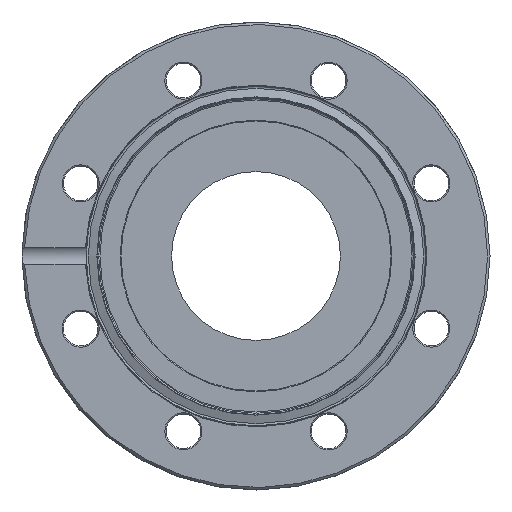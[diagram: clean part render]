
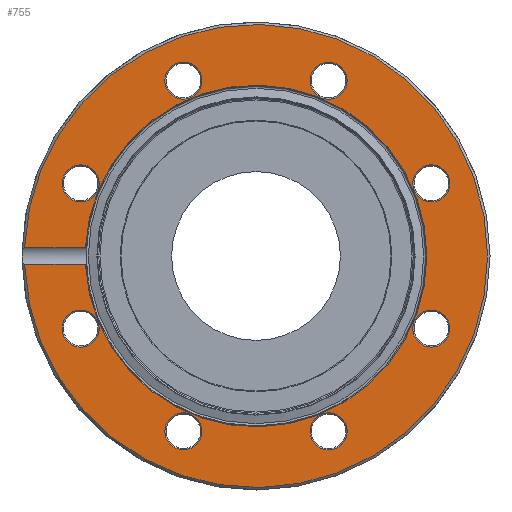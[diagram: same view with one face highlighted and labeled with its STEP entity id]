
A CAD part, left-side view. The second image highlights one B-rep face of the part: STEP entity #755.
In plain terms, the highlighted planar face has unit normal (-1, 0, 0).
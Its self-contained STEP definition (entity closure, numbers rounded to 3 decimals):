
#472=CARTESIAN_POINT('',(0.,41.45,-2.04));
#473=VERTEX_POINT('',#472);
#483=CARTESIAN_POINT('',(0.,41.45,2.04));
#484=VERTEX_POINT('',#483);
#485=CARTESIAN_POINT('',(0.,0.,0.0));
#486=DIRECTION('',(-1.0,0.0,0.0));
#487=DIRECTION('',(0.0,-1.0,0.0));
#488=AXIS2_PLACEMENT_3D('',#485,#486,#487);
#489=CIRCLE('',#488,41.5);
#490=EDGE_CURVE('',#473,#484,#489,.T.);
#550=CARTESIAN_POINT('',(0.,56.213,-2.04));
#551=VERTEX_POINT('',#550);
#572=CARTESIAN_POINT('',(0.,56.213,2.04));
#573=VERTEX_POINT('',#572);
#583=CARTESIAN_POINT('',(0.,0.,0.0));
#584=DIRECTION('',(1.0,0.0,0.0));
#585=DIRECTION('',(0.0,-1.0,0.0));
#586=AXIS2_PLACEMENT_3D('',#583,#584,#585);
#587=CIRCLE('',#586,56.25);
#588=EDGE_CURVE('',#573,#551,#587,.T.);
#637=CARTESIAN_POINT('',(0.,56.213,2.04));
#638=DIRECTION('',(0.0,-1.0,0.0));
#639=VECTOR('',#638,14.763);
#640=LINE('',#637,#639);
#641=EDGE_CURVE('',#573,#484,#640,.T.);
#647=CARTESIAN_POINT('',(0.,41.45,-2.04));
#648=DIRECTION('',(0.0,1.0,0.0));
#649=VECTOR('',#648,14.763);
#650=LINE('',#647,#649);
#651=EDGE_CURVE('',#473,#551,#650,.T.);
#656=CARTESIAN_POINT('',(0.0,49.075,0.0));
#657=DIRECTION('',(-1.0,0.0,0.0));
#658=DIRECTION('',(0.0,0.0,1.0));
#659=AXIS2_PLACEMENT_3D('',#656,#657,#658);
#660=PLANE('',#659);
#661=ORIENTED_EDGE('',*,*,#490,.F.);
#662=ORIENTED_EDGE('',*,*,#651,.T.);
#663=ORIENTED_EDGE('',*,*,#588,.F.);
#664=ORIENTED_EDGE('',*,*,#641,.T.);
#665=EDGE_LOOP('',(#661,#662,#663,#664));
#666=FACE_OUTER_BOUND('',#665,.T.);
#667=CARTESIAN_POINT('',(0.,-22.142,42.591));
#668=VERTEX_POINT('',#667);
#669=CARTESIAN_POINT('',(0.,-17.642,42.591));
#670=DIRECTION('',(-1.0,0.0,0.0));
#671=DIRECTION('',(0.0,1.0,0.0));
#672=AXIS2_PLACEMENT_3D('',#669,#670,#671);
#673=CIRCLE('',#672,4.5);
#674=EDGE_CURVE('',#668,#668,#673,.T.);
#675=ORIENTED_EDGE('',*,*,#674,.F.);
#676=EDGE_LOOP('',(#675));
#677=FACE_BOUND('',#676,.T.);
#678=CARTESIAN_POINT('',(0.,42.591,22.142));
#679=VERTEX_POINT('',#678);
#680=CARTESIAN_POINT('',(0.,42.591,17.642));
#681=DIRECTION('',(-1.0,0.0,0.0));
#682=DIRECTION('',(0.0,0.0,-1.0));
#683=AXIS2_PLACEMENT_3D('',#680,#681,#682);
#684=CIRCLE('',#683,4.5);
#685=EDGE_CURVE('',#679,#679,#684,.T.);
#686=ORIENTED_EDGE('',*,*,#685,.F.);
#687=EDGE_LOOP('',(#686));
#688=FACE_BOUND('',#687,.T.);
#689=CARTESIAN_POINT('',(0.,14.46,45.773));
#690=VERTEX_POINT('',#689);
#691=CARTESIAN_POINT('',(0.,17.642,42.591));
#692=DIRECTION('',(-1.0,0.,0.));
#693=DIRECTION('',(0.,0.707,-0.707));
#694=AXIS2_PLACEMENT_3D('',#691,#692,#693);
#695=CIRCLE('',#694,4.5);
#696=EDGE_CURVE('',#690,#690,#695,.T.);
#697=ORIENTED_EDGE('',*,*,#696,.F.);
#698=EDGE_LOOP('',(#697));
#699=FACE_BOUND('',#698,.T.);
#700=CARTESIAN_POINT('',(0.,-45.773,14.46));
#701=VERTEX_POINT('',#700);
#702=CARTESIAN_POINT('',(0.,-42.591,17.642));
#703=DIRECTION('',(-1.0,0.,0.));
#704=DIRECTION('',(0.,0.707,0.707));
#705=AXIS2_PLACEMENT_3D('',#702,#703,#704);
#706=CIRCLE('',#705,4.5);
#707=EDGE_CURVE('',#701,#701,#706,.T.);
#708=ORIENTED_EDGE('',*,*,#707,.F.);
#709=EDGE_LOOP('',(#708));
#710=FACE_BOUND('',#709,.T.);
#711=CARTESIAN_POINT('',(0.,45.773,-14.46));
#712=VERTEX_POINT('',#711);
#713=CARTESIAN_POINT('',(0.,42.591,-17.642));
#714=DIRECTION('',(-1.0,0.,0.));
#715=DIRECTION('',(0.,-0.707,-0.707));
#716=AXIS2_PLACEMENT_3D('',#713,#714,#715);
#717=CIRCLE('',#716,4.5);
#718=EDGE_CURVE('',#712,#712,#717,.T.);
#719=ORIENTED_EDGE('',*,*,#718,.F.);
#720=EDGE_LOOP('',(#719));
#721=FACE_BOUND('',#720,.T.);
#722=CARTESIAN_POINT('',(0.,-14.46,-45.773));
#723=VERTEX_POINT('',#722);
#724=CARTESIAN_POINT('',(0.,-17.642,-42.591));
#725=DIRECTION('',(-1.0,0.,0.));
#726=DIRECTION('',(0.,-0.707,0.707));
#727=AXIS2_PLACEMENT_3D('',#724,#725,#726);
#728=CIRCLE('',#727,4.5);
#729=EDGE_CURVE('',#723,#723,#728,.T.);
#730=ORIENTED_EDGE('',*,*,#729,.F.);
#731=EDGE_LOOP('',(#730));
#732=FACE_BOUND('',#731,.T.);
#733=CARTESIAN_POINT('',(0.,-42.591,-22.142));
#734=VERTEX_POINT('',#733);
#735=CARTESIAN_POINT('',(0.,-42.591,-17.642));
#736=DIRECTION('',(-1.0,0.0,0.0));
#737=DIRECTION('',(0.0,0.0,1.0));
#738=AXIS2_PLACEMENT_3D('',#735,#736,#737);
#739=CIRCLE('',#738,4.5);
#740=EDGE_CURVE('',#734,#734,#739,.T.);
#741=ORIENTED_EDGE('',*,*,#740,.F.);
#742=EDGE_LOOP('',(#741));
#743=FACE_BOUND('',#742,.T.);
#744=CARTESIAN_POINT('',(0.,22.142,-42.591));
#745=VERTEX_POINT('',#744);
#746=CARTESIAN_POINT('',(0.,17.642,-42.591));
#747=DIRECTION('',(-1.0,0.0,0.0));
#748=DIRECTION('',(0.0,-1.0,0.0));
#749=AXIS2_PLACEMENT_3D('',#746,#747,#748);
#750=CIRCLE('',#749,4.5);
#751=EDGE_CURVE('',#745,#745,#750,.T.);
#752=ORIENTED_EDGE('',*,*,#751,.F.);
#753=EDGE_LOOP('',(#752));
#754=FACE_BOUND('',#753,.T.);
#755=ADVANCED_FACE('',(#666,#677,#688,#699,#710,#721,#732,#743,#754),#660,.T.);
